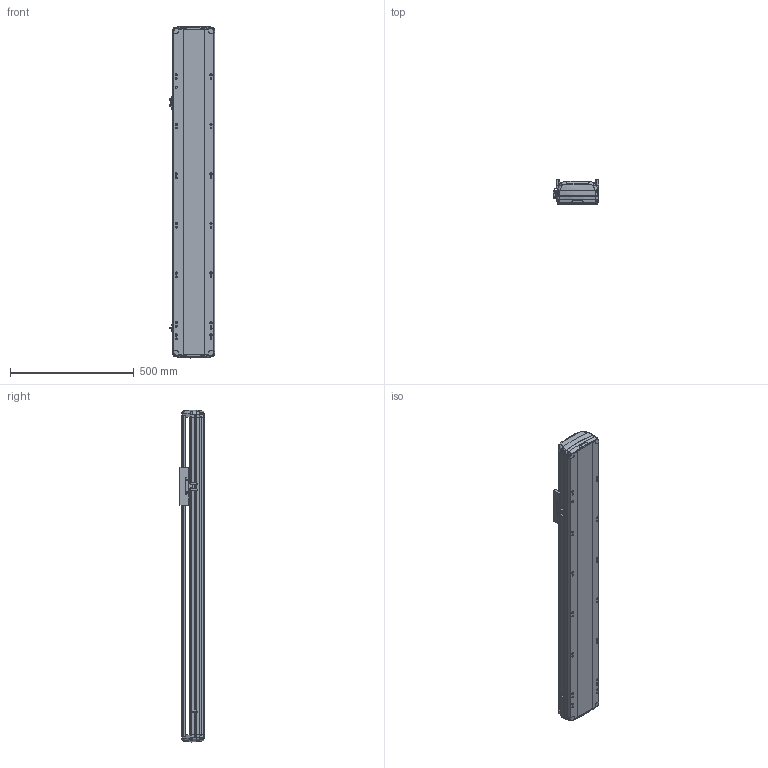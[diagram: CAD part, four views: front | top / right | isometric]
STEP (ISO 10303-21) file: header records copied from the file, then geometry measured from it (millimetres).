
FILE_DESCRIPTION (( 'STEP AP214' ), '1' );
FILE_NAME ('RTH17-XX-900-B-M40B-C4.STEP', '2025-10-24T09:17:57', ( '' ), ( '' ), 'SwSTEP 2.0', 'SolidWorks 2018', '' );
FILE_SCHEMA (( 'AUTOMOTIVE_DESIGN' ));
Length unit declared in the file: millimetre
Products named in the file (7): N_RTH17-E-004丝杆螺母连接座^RTH17-XX-XX-B-M40B-C4（方程式）; RTH17-XX-900-B-M40B-C4; N_OMRON EE-SX672 換覜ん^RTH17-XX-XX-B-M40B-C4ㄗ源最宒ㄘ; N_RTH17-GY-001P^RTH17-XX-XX-B-M40B-C4（方程式）; N_RTH17-M-011B底座^RTH17-XX-XX-B-M40B-C4（方程式）; N_RTH17-M-007B上盖^RTH17-XX-XX-B-M40B-C4（方程式）; N_RTH-L-012 感应片(外置)^RTH17-XX-XX-B-M40B-C4（方程式）
Assembly tree (9 placements, depth 2):
  RTH17-XX-900-B-M40B-C4
    N_RTH17-M-011B底座^RTH17-XX-XX-B-M40B-C4（方程式）
    N_RTH17-M-007B上盖^RTH17-XX-XX-B-M40B-C4（方程式）
    N_OMRON EE-SX672 換覜ん^RTH17-XX-XX-B-M40B-C4ㄗ源最宒ㄘ  x3
    N_RTH-L-012 感应片(外置)^RTH17-XX-XX-B-M40B-C4（方程式）
    N_RTH17-E-004丝杆螺母连接座^RTH17-XX-XX-B-M40B-C4（方程式）
    N_RTH17-GY-001P^RTH17-XX-XX-B-M40B-C4（方程式）  x2
Bounding box: 183.5 x 97 x 1339.88 mm (x, y, z)
Volume: 9773056.2 mm3; surface area: 1343799.9 mm2
Topology: 7 solids, 11 shells, 1752 faces, 4934 edges, 3206 vertices
Faces by surface type: plane 813, cylinder 473, bspline 420, cone 28, torus 18
Entity records: 41814 total; most frequent: CARTESIAN_POINT 17297, ORIENTED_EDGE 5372, DIRECTION 4246, EDGE_CURVE 2690, VERTEX_POINT 1760, LINE 1454, VECTOR 1454, AXIS2_PLACEMENT_3D 1396
